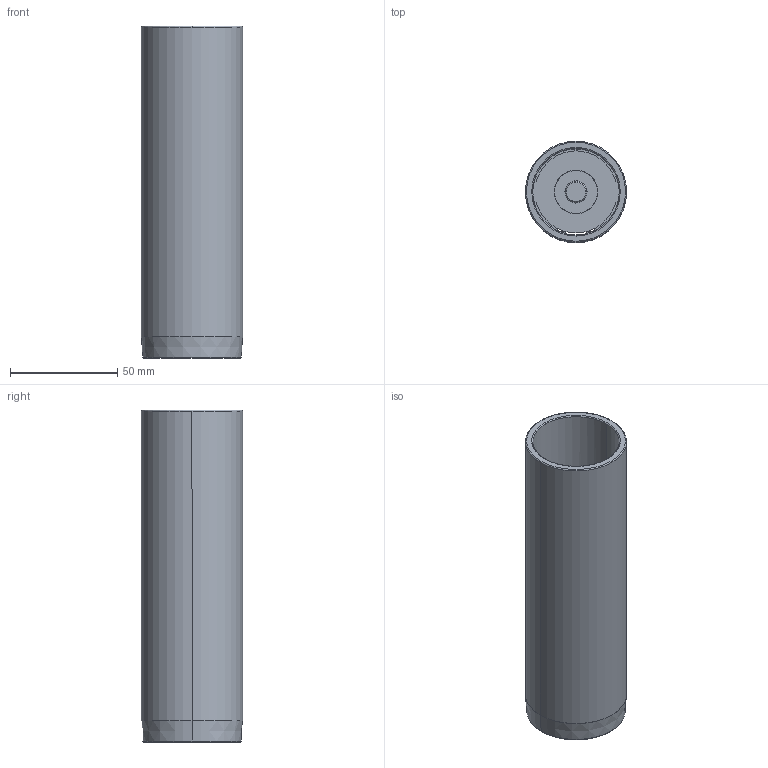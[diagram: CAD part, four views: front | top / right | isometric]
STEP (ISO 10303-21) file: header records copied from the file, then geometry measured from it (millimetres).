
FILE_DESCRIPTION((''),'2;1');
FILE_NAME('C12_040_155.stp','2009-01-28T11:36:31',(''),(''),'Mechanical Desktop 2009','Mechanical Desktop 2009',', , ');
FILE_SCHEMA(('CONFIG_CONTROL_DESIGN'));
Length unit declared in the file: millimetre
Products named in the file (2): Product; blmdl1
Assembly tree (1 placements, depth 2):
  Product
    blmdl1
Bounding box: 47.25 x 47.25 x 155 mm (x, y, z)
Volume: 77393.1 mm3; surface area: 50290.5 mm2
Topology: 5 solids, 5 shells, 79 faces, 200 edges, 134 vertices
Faces by surface type: cylinder 34, plane 29, torus 10, cone 6
Entity records: 2585 total; most frequent: DIRECTION 480, CARTESIAN_POINT 435, ORIENTED_EDGE 400, AXIS2_PLACEMENT_3D 203, EDGE_CURVE 200, VERTEX_POINT 134, CIRCLE 122, EDGE_LOOP 92
